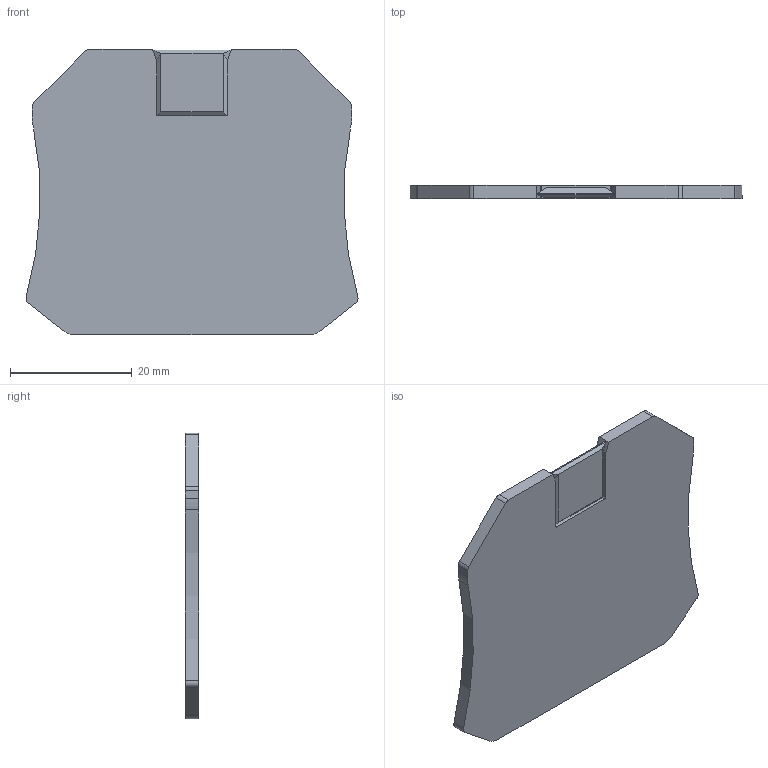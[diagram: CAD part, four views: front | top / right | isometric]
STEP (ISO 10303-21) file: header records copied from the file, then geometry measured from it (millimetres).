
FILE_DESCRIPTION( ('This file contains a STEP AP42 implementation' ,'as created by ZW3D STEP Interface translator.') ,'2;1' );
FILE_NAME( 'D-RUT16傷啣耀倰.stp' ,'23 4 7.174032', (''), ('ZWCAD Software Co.'), 'Version 1.0', 'ZW3D to STEP translator', '' );
FILE_SCHEMA(('AUTOMOTIVE_DESIGN { 1 0 10303 214 1 1 1 1 }'));
Length unit declared in the file: millimetre
Products named in the file (2): 0; RUT16_錨璃45
Bounding box: 54.58 x 2.2 x 47 mm (x, y, z)
Volume: 5010.4 mm3; surface area: 5103.3 mm2
Topology: 1 solids, 1 shells, 50 faces, 134 edges, 86 vertices
Faces by surface type: plane 34, cylinder 16
Entity records: 1633 total; most frequent: CARTESIAN_POINT 295, ORIENTED_EDGE 268, DIRECTION 256, EDGE_CURVE 134, VECTOR 98, LINE 98, VERTEX_POINT 86, AXIS2_PLACEMENT_3D 79
